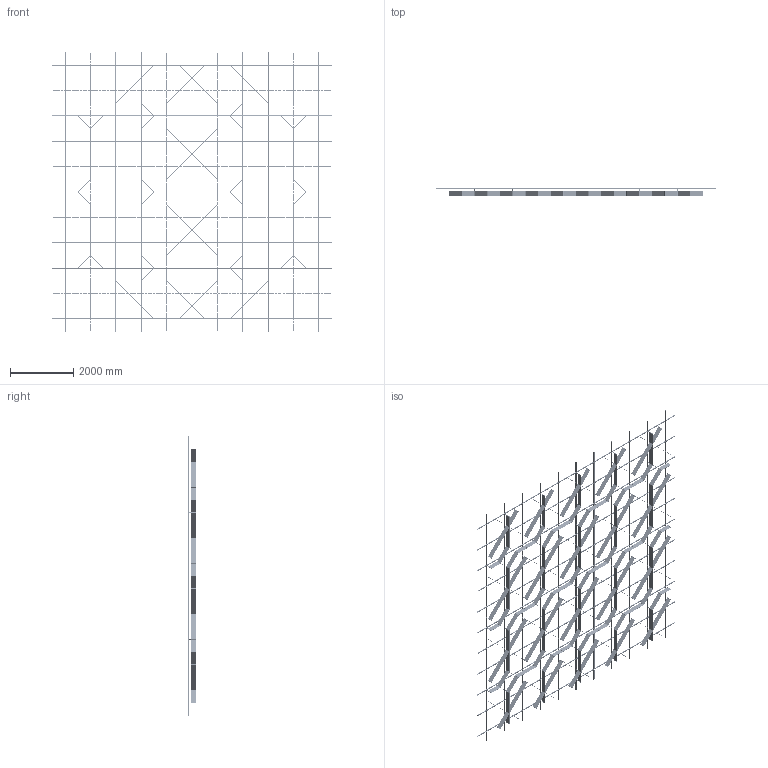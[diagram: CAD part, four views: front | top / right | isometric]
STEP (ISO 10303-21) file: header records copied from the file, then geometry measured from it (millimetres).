
FILE_DESCRIPTION (( 'STEP AP214' ), '1' );
FILE_NAME ('OPT_Var8.STEP', '2024-04-26T06:43:14', ( '' ), ( '' ), 'SwSTEP 2.0', 'SolidWorks 2020', '' );
FILE_SCHEMA (( 'AUTOMOTIVE_DESIGN' ));
Length unit declared in the file: millimetre
Products named in the file (5): SS.SEMA.2400 - Ñèìà-ïðîôèëü — îáðåçàí 1600; Ñèñòåìà â çîíå 8000õ8000; Varp8; OPT_Var8; SS.SEMA.2400 - Ñèìà-ïðîôèëü
Assembly tree (90 placements, depth 3):
  OPT_Var8
    Ñèñòåìà â çîíå 8000õ8000
      SS.SEMA.2400 - Ñèìà-ïðîôèëü  x66
      SS.SEMA.2400 - Ñèìà-ïðîôèëü — îáðåçàí 1600  x22
    Varp8
Bounding box: 8800 x 253 x 8800 mm (x, y, z)
Volume: 193717431.1 mm3; surface area: 79929110.8 mm2
Topology: 954 solids, 954 shells, 21224 faces, 56540 edges, 37224 vertices
Faces by surface type: cylinder 13170, plane 8054
Entity records: 136131 total; most frequent: CARTESIAN_POINT 41966, ORIENTED_EDGE 19928, DIRECTION 11802, EDGE_CURVE 9964, VERTEX_POINT 6632, B_SPLINE_CURVE_WITH_KNOTS 6352, AXIS2_PLACEMENT_3D 5652, EDGE_LOOP 5230
